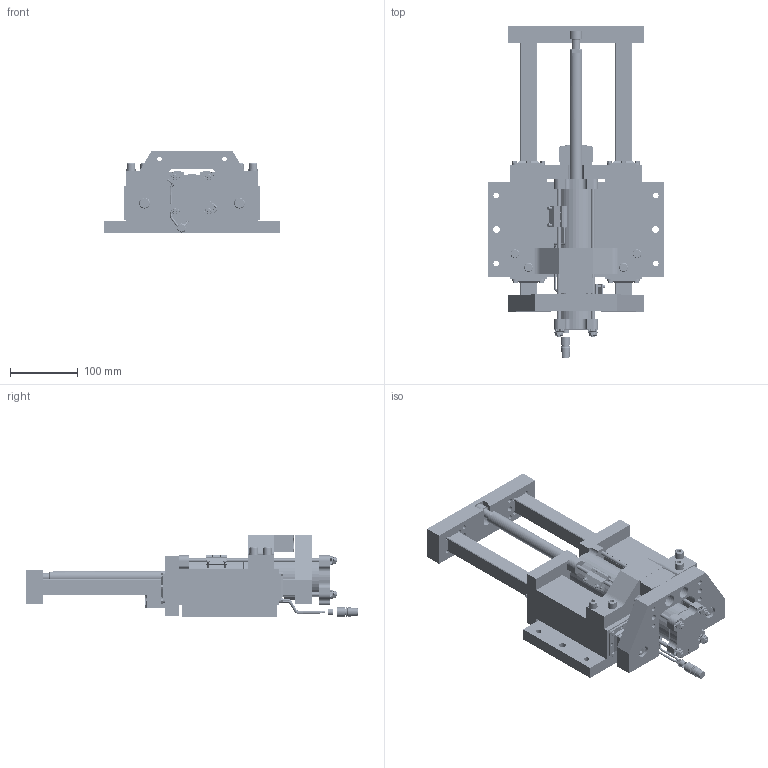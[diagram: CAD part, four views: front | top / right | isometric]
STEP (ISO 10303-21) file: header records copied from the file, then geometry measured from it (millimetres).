
FILE_DESCRIPTION(/* description */ (''),/* implementation_level */ '2;1');
FILE_NAME(/* name */ 'C:\Vault Workspace\CAD\Welker\Shot Pin\DBL24\STANDARD\DB2150B01XL3XXX0000-EXT.stp',/* time_stamp */ '2018-03-26T07:58:40-04:00',/* author */ ('KLabrecque'),/* organization */ (''),/* preprocessor_version */ 'ST-DEVELOPER v17',/* originating_system */ 'Autodesk Inventor 2018',/* authorisation */ '');
FILE_SCHEMA (('AUTOMOTIVE_DESIGN { 1 0 10303 214 3 1 1 }'));
Products named in the file (1): DB2L01_Shrinkwrap_1
Bounding box: 260 x 489.45 x 120.8 mm (x, y, z)
Volume: 3160772.3 mm3; surface area: 761728.5 mm2
Topology: 131 solids, 131 shells, 4520 faces, 11855 edges, 7811 vertices
Faces by surface type: plane 2682, cylinder 1234, cone 526, bspline 56, torus 22
Full cylindrical faces by diameter (mm): 0.5 x1, 1.9 x2, 2.459 x4, 2.5 x1, 2.6 x2, 3 x8, 3.175 x22, 3.2 x6, 3.5 x4, 3.734 x16, 4 x2, 4.166 x16, 4.763 x32, 4.917 x12, 5 x2, 5.359 x8, 5.5 x4, 6 x12, 6.35 x2, 6.5 x28, 6.563 x16, 6.647 x8, 7 x8, 7.95 x4, 8 x32, 8.334 x12, 8.376 x12, 8.5 x16, 8.7 x16, 9.6 x1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
Entity records: 162141 total; most frequent: CARTESIAN_POINT 47902, ORIENTED_EDGE 23588, DIRECTION 21914, EDGE_CURVE 11794, AXIS2_PLACEMENT_3D 8339, VERTEX_POINT 7811, LINE 5236, VECTOR 5236
